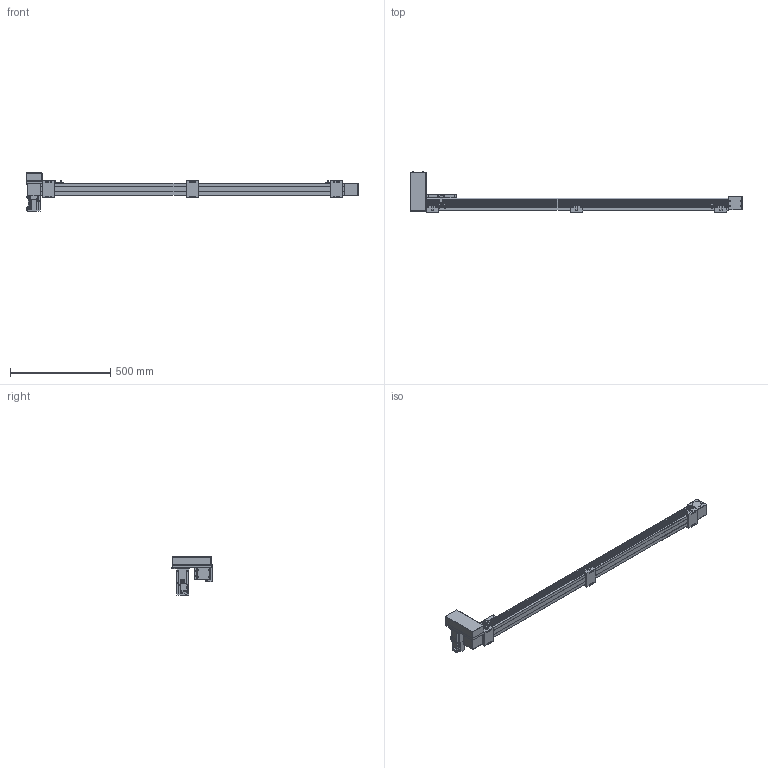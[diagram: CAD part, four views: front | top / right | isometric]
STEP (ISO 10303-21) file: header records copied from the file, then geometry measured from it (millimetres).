
FILE_DESCRIPTION(/* description */ ('STEP AP214'),/* implementation_level */ '2;1');
FILE_NAME(/* name */ 'SK60-P13-S1350-RU-T40-C1-N(0)',/* time_stamp */ '2023-04-06T05:04:11+02:00',/* author */ ('License CC BY-ND 4.0'),/* organization */ ('CADENAS'),/* preprocessor_version */ 'ST-DEVELOPER v19.3',/* originating_system */ 'PARTsolutions',/* authorisation */ ' ');
FILE_SCHEMA (('AUTOMOTIVE_DESIGN {1 0 10303 214 3 1 1}'));
Length unit declared in the file: millimetre
Products named in the file (10): SK60-P13-S1350-RU-T40-C1-N(0); PSC140-sensor; SK60-S450_seat; SK60-S450-BL-C1_slider; SK60_body3; SK60_body6; SK60-BL_body2; T40-p1; SK60-RU_fb; SK60-S1350-RU-C1_body
Assembly tree (17 placements, depth 2):
  SK60-P13-S1350-RU-T40-C1-N(0)
    PSC140-sensor  x3
    SK60-S450_seat  x3
    SK60-S450-BL-C1_slider
    SK60_body3  x3
    SK60_body6  x2
    SK60-BL_body2  x2
    T40-p1
    SK60-RU_fb
    SK60-S1350-RU-C1_body
Bounding box: 1655.5 x 201 x 189.7 mm (x, y, z)
Volume: 6804928.1 mm3; surface area: 832978.2 mm2
Topology: 17 solids, 17 shells, 854 faces, 2146 edges, 1413 vertices
Faces by surface type: plane 548, cylinder 278, cone 26, torus 2
Full cylindrical faces by diameter (mm): 2.8 x3, 3.3 x4, 4 x2, 4.5 x30, 4.6 x3, 4.917 x20, 5 x6, 5.478 x4, 5.5 x23, 6.5 x6, 7 x2, 8 x4, 8.5 x4, 9.988 x4, 10 x12, 14 x1, 47 x3, 50 x2
Entity records: 18663 total; most frequent: DIRECTION 3186, CARTESIAN_POINT 3151, ORIENTED_EDGE 2940, EDGE_CURVE 1470, AXIS2_PLACEMENT_3D 1069, LINE 1048, VECTOR 1048, VERTEX_POINT 1034
